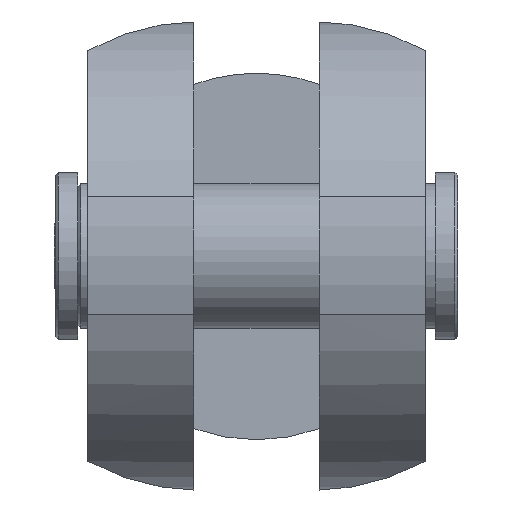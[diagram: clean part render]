
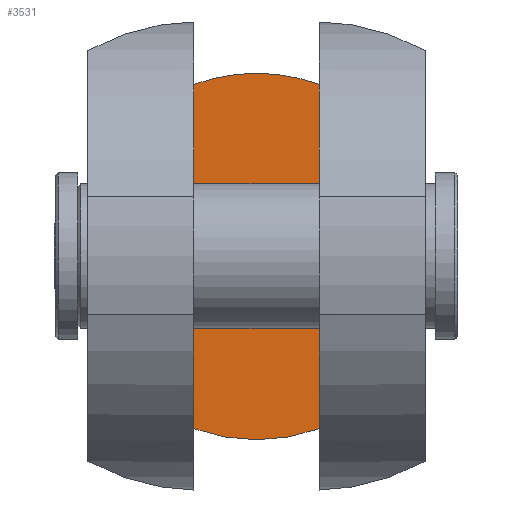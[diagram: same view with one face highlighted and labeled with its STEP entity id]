
A CAD part, top view. The second image highlights one B-rep face of the part: STEP entity #3531.
In plain terms, the highlighted planar face has unit normal (0, 0, 1).
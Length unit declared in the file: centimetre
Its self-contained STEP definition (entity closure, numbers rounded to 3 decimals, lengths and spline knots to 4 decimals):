
#351=LINE('',#5747,#699);
#352=LINE('',#5749,#700);
#699=VECTOR('',#4451,12.3353);
#700=VECTOR('',#4454,12.3353);
#928=PLANE('',#3733);
#1151=FACE_OUTER_BOUND('',#1369,.T.);
#1369=EDGE_LOOP('',(#3067,#3068,#3069,#3070));
#1437=CIRCLE('',#3587,6.5652);
#1438=CIRCLE('',#3588,6.5652);
#1490=VERTEX_POINT('',#4625);
#1491=VERTEX_POINT('',#4629);
#1496=VERTEX_POINT('',#4661);
#1497=VERTEX_POINT('',#4665);
#1806=EDGE_CURVE('',#1490,#1491,#1437,.T.);
#1812=EDGE_CURVE('',#1496,#1497,#1438,.T.);
#2207=EDGE_CURVE('',#1497,#1490,#351,.T.);
#2208=EDGE_CURVE('',#1496,#1491,#352,.T.);
#3067=ORIENTED_EDGE('',*,*,#1812,.F.);
#3068=ORIENTED_EDGE('',*,*,#2208,.T.);
#3069=ORIENTED_EDGE('',*,*,#1806,.F.);
#3070=ORIENTED_EDGE('',*,*,#2207,.F.);
#3531=ADVANCED_FACE('',(#1151),#928,.F.);
#3587=AXIS2_PLACEMENT_3D('',#4630,#3825,#3826);
#3588=AXIS2_PLACEMENT_3D('',#4666,#3827,#3828);
#3733=AXIS2_PLACEMENT_3D('',#5748,#4452,#4453);
#3825=DIRECTION('center_axis',(0.,0.,
-1.));
#3826=DIRECTION('ref_axis',(0.,1.,0.));
#3827=DIRECTION('center_axis',(0.,0.,
-1.));
#3828=DIRECTION('ref_axis',(0.,1.,0.));
#4451=DIRECTION('',(0.,-1.,0.));
#4452=DIRECTION('center_axis',(0.,0.,
-1.));
#4453=DIRECTION('ref_axis',(1.,0.,0.));
#4454=DIRECTION('',(0.,-1.,0.));
#4625=CARTESIAN_POINT('',(2.25,-6.1676,-10.4));
#4629=CARTESIAN_POINT('',(-2.25,-6.1676,-10.4));
#4630=CARTESIAN_POINT('Origin',(0.,0.,
-10.4));
#4661=CARTESIAN_POINT('',(-2.25,6.1676,-10.4));
#4665=CARTESIAN_POINT('',(2.25,6.1676,-10.4));
#4666=CARTESIAN_POINT('Origin',(0.,0.,
-10.4));
#5747=CARTESIAN_POINT('',(2.25,0.,-10.4));
#5748=CARTESIAN_POINT('Origin',(-2.25,0.,
-10.4));
#5749=CARTESIAN_POINT('',(-2.25,0.,-10.4));
